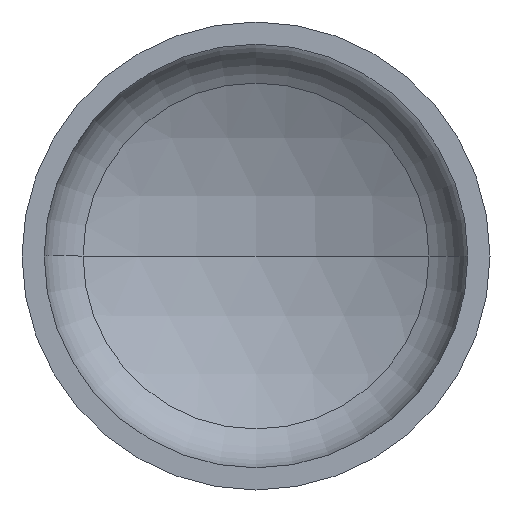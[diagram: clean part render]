
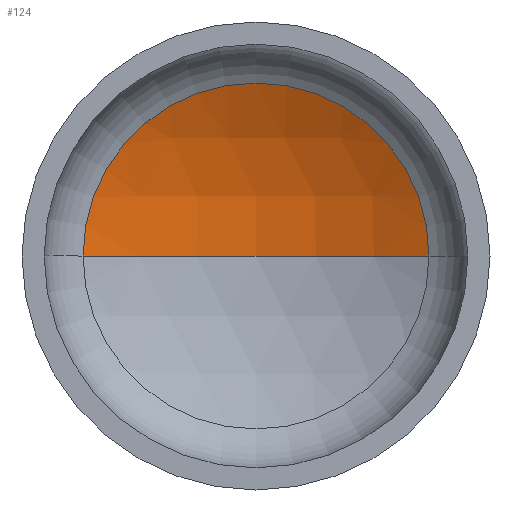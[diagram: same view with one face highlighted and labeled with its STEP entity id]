
A CAD part, front view. The second image highlights one B-rep face of the part: STEP entity #124.
In plain terms, the highlighted spherical face has radius 1760 mm.
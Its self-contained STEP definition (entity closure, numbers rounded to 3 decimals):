
#3 = DIRECTION ( 'NONE',  ( 0., 0., -1. ) ) ;
#10 = AXIS2_PLACEMENT_3D ( 'NONE', #272, #365, #84 ) ;
#16 = CARTESIAN_POINT ( 'NONE',  ( -813.07, 376.544, 0. ) ) ;
#18 = EDGE_LOOP ( 'NONE', ( #73, #22, #146 ) ) ;
#22 = ORIENTED_EDGE ( 'NONE', *, *, #362, .T. ) ;
#28 = AXIS2_PLACEMENT_3D ( 'NONE', #171, #169, #170 ) ;
#36 = VERTEX_POINT ( 'NONE', #289 ) ;
#46 = AXIS2_PLACEMENT_3D ( 'NONE', #382, #3, #224 ) ;
#54 = AXIS2_PLACEMENT_3D ( 'NONE', #219, #215, #218 ) ;
#73 = ORIENTED_EDGE ( 'NONE', *, *, #346, .F. ) ;
#78 = CIRCLE ( 'NONE', #28, 1760. ) ;
#84 = DIRECTION ( 'NONE',  ( -1., 0., 0. ) ) ;
#97 = EDGE_CURVE ( 'NONE', #113, #138, #402, .T. ) ;
#113 = VERTEX_POINT ( 'NONE', #198 ) ;
#124 = ADVANCED_FACE ( 'NONE', ( #341 ), #397, .F. ) ;
#138 = VERTEX_POINT ( 'NONE', #16 ) ;
#146 = ORIENTED_EDGE ( 'NONE', *, *, #97, .T. ) ;
#169 = DIRECTION ( 'NONE',  ( 0., 0., 1. ) ) ;
#170 = DIRECTION ( 'NONE',  ( 1., 0., 0. ) ) ;
#171 = CARTESIAN_POINT ( 'NONE',  ( 0., -1184.39, 0. ) ) ;
#198 = CARTESIAN_POINT ( 'NONE',  ( 813.07, 376.544, 0. ) ) ;
#215 = DIRECTION ( 'NONE',  ( 0., -1., 0. ) ) ;
#218 = DIRECTION ( 'NONE',  ( 1., 0., 0. ) ) ;
#219 = CARTESIAN_POINT ( 'NONE',  ( 0., 376.544, 0. ) ) ;
#224 = DIRECTION ( 'NONE',  ( -1., 0., 0. ) ) ;
#272 = CARTESIAN_POINT ( 'NONE',  ( 0., -1184.39, 0. ) ) ;
#289 = CARTESIAN_POINT ( 'NONE',  ( 0., 575.61, 0. ) ) ;
#341 = FACE_OUTER_BOUND ( 'NONE', #18, .T. ) ;
#346 = EDGE_CURVE ( 'NONE', #36, #138, #78, .T. ) ;
#362 = EDGE_CURVE ( 'NONE', #36, #113, #367, .T. ) ;
#365 = DIRECTION ( 'NONE',  ( 0., 0., -1. ) ) ;
#367 = CIRCLE ( 'NONE', #10, 1760. ) ;
#382 = CARTESIAN_POINT ( 'NONE',  ( 0., -1184.39, 0. ) ) ;
#397 = SPHERICAL_SURFACE ( 'NONE', #46, 1760. ) ;
#402 = CIRCLE ( 'NONE', #54, 813.07 ) ;
